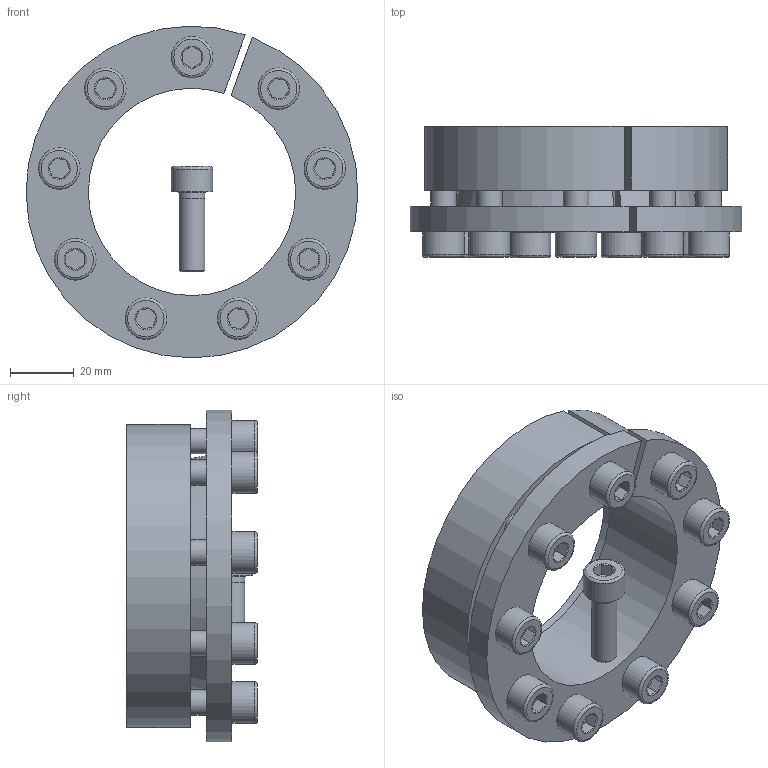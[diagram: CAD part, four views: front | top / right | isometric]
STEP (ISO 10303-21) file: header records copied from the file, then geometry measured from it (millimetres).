
FILE_DESCRIPTION( ( 'Unknown' ), '1' );
FILE_NAME( 'C:/Dokumente und Einstellungen/Sven/Desktop/homepage/cad - homepage/KBS16/KBS 16 - 65 x 95.stp', 'Unknown', ( 'Unknown' ), ( 'Unknown' ), 'XStep 1.0', 'Unknown', ' ' );
FILE_SCHEMA( ( 'automotive_design' ) );
Length unit declared in the file: millimetre
Products named in the file (3): Assem1; KBS 16 - 65 x 95; ISO EN DIN 4762 M8x25
Bounding box: 103.99 x 41 x 103.99 mm (x, y, z)
Volume: 237361.8 mm3; surface area: 88277.1 mm2
Topology: 12 solids, 12 shells, 310 faces, 616 edges, 370 vertices
Faces by surface type: plane 134, cylinder 82, cone 74, torus 20
Full cylindrical faces by diameter (mm): 7 x10, 8 x56, 13 x10
Entity records: 1848 total; most frequent: CARTESIAN_POINT 304, DIRECTION 286, ORIENTED_EDGE 202, AXIS2_PLACEMENT_3D 129, EDGE_LOOP 120, EDGE_CURVE 101, FACE_OUTER_BOUND 79, VERTEX_POINT 79
